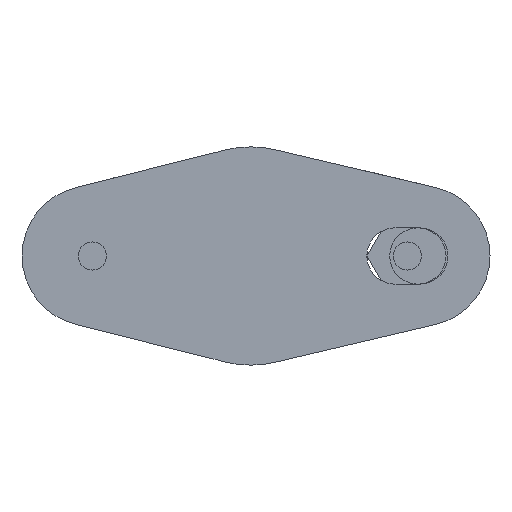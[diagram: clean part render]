
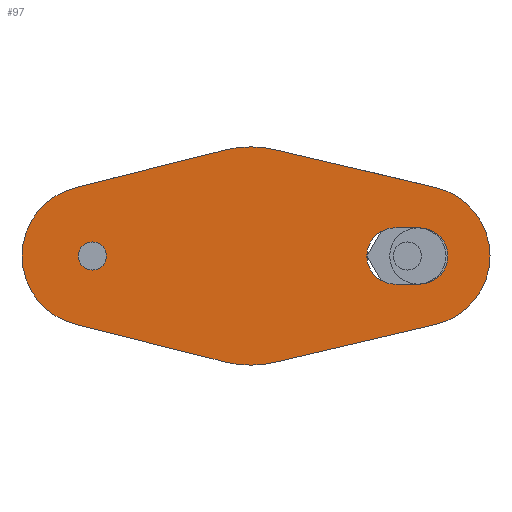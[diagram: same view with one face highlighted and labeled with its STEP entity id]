
A CAD part, front view. The second image highlights one B-rep face of the part: STEP entity #97.
In plain terms, the highlighted planar face has unit normal (0, -1, 0).
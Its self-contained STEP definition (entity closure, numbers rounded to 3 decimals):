
#97=ADVANCED_FACE('',(#181,#182,#183),#184,.F.);
#181=FACE_OUTER_BOUND('',#325,.T.);
#182=FACE_BOUND('',#326,.T.);
#183=FACE_BOUND('',#327,.T.);
#184=PLANE('',#328);
#325=EDGE_LOOP('',(#557,#558,#559,#560,#561,#562,#563,#564,#565,#566));
#326=EDGE_LOOP('',(#567,#568));
#327=EDGE_LOOP('',(#569,#570,#571,#572));
#328=AXIS2_PLACEMENT_3D('',#573,#574,#575);
#557=ORIENTED_EDGE('',*,*,#1025,.F.);
#558=ORIENTED_EDGE('',*,*,#1026,.F.);
#559=ORIENTED_EDGE('',*,*,#1027,.F.);
#560=ORIENTED_EDGE('',*,*,#1022,.F.);
#561=ORIENTED_EDGE('',*,*,#963,.F.);
#562=ORIENTED_EDGE('',*,*,#1020,.F.);
#563=ORIENTED_EDGE('',*,*,#1017,.F.);
#564=ORIENTED_EDGE('',*,*,#1028,.F.);
#565=ORIENTED_EDGE('',*,*,#1029,.F.);
#566=ORIENTED_EDGE('',*,*,#995,.F.);
#567=ORIENTED_EDGE('',*,*,#973,.F.);
#568=ORIENTED_EDGE('',*,*,#1030,.F.);
#569=ORIENTED_EDGE('',*,*,#1031,.T.);
#570=ORIENTED_EDGE('',*,*,#1032,.T.);
#571=ORIENTED_EDGE('',*,*,#1033,.T.);
#572=ORIENTED_EDGE('',*,*,#1034,.T.);
#573=CARTESIAN_POINT('',(45.0,0.0,0.0));
#574=DIRECTION('',(-0.0,1.0,0.0));
#575=DIRECTION('',(1.0,0.0,0.0));
#963=EDGE_CURVE('',#1123,#1126,#1127,.T.);
#973=EDGE_CURVE('',#1145,#1146,#1147,.T.);
#995=EDGE_CURVE('',#1185,#1187,#1188,.T.);
#1017=EDGE_CURVE('',#1223,#1225,#1226,.T.);
#1020=EDGE_CURVE('',#1225,#1123,#1229,.T.);
#1022=EDGE_CURVE('',#1126,#1232,#1233,.T.);
#1025=EDGE_CURVE('',#1236,#1185,#1237,.T.);
#1026=EDGE_CURVE('',#1238,#1236,#1239,.T.);
#1027=EDGE_CURVE('',#1232,#1238,#1240,.T.);
#1028=EDGE_CURVE('',#1241,#1223,#1242,.T.);
#1029=EDGE_CURVE('',#1187,#1241,#1243,.T.);
#1030=EDGE_CURVE('',#1146,#1145,#1244,.T.);
#1031=EDGE_CURVE('',#1245,#1246,#1247,.T.);
#1032=EDGE_CURVE('',#1246,#1248,#1249,.T.);
#1033=EDGE_CURVE('',#1248,#1250,#1251,.T.);
#1034=EDGE_CURVE('',#1250,#1245,#1252,.T.);
#1123=VERTEX_POINT('',#1390);
#1126=VERTEX_POINT('',#1394);
#1127=CIRCLE('',#1395,31.0);
#1145=VERTEX_POINT('',#1416);
#1146=VERTEX_POINT('',#1417);
#1147=CIRCLE('',#1418,4.0);
#1185=VERTEX_POINT('',#1478);
#1187=VERTEX_POINT('',#1481);
#1188=CIRCLE('',#1482,31.0);
#1223=VERTEX_POINT('',#1532);
#1225=VERTEX_POINT('',#1535);
#1226=LINE('',#1536,#1537);
#1229=CIRCLE('',#1541,31.0);
#1232=VERTEX_POINT('',#1545);
#1233=LINE('',#1546,#1547);
#1236=VERTEX_POINT('',#1552);
#1237=CIRCLE('',#1553,31.0);
#1238=VERTEX_POINT('',#1554);
#1239=LINE('',#1555,#1556);
#1240=CIRCLE('',#1557,20.0);
#1241=VERTEX_POINT('',#1558);
#1242=CIRCLE('',#1559,20.0);
#1243=LINE('',#1560,#1561);
#1244=CIRCLE('',#1562,4.0);
#1245=VERTEX_POINT('',#1563);
#1246=VERTEX_POINT('',#1564);
#1247=CIRCLE('',#1565,8.0);
#1248=VERTEX_POINT('',#1566);
#1249=LINE('',#1567,#1568);
#1250=VERTEX_POINT('',#1569);
#1251=CIRCLE('',#1570,8.0);
#1252=LINE('',#1571,#1572);
#1390=CARTESIAN_POINT('',(45.0,0.0,31.0));
#1394=CARTESIAN_POINT('',(52.104,0.0,30.175));
#1395=AXIS2_PLACEMENT_3D('',#1789,#1790,#1791);
#1416=CARTESIAN_POINT('',(0.0,0.0,-4.0));
#1417=CARTESIAN_POINT('',(0.,0.0,4.0));
#1418=AXIS2_PLACEMENT_3D('',#1813,#1814,#1815);
#1478=CARTESIAN_POINT('',(45.0,0.0,-31.0));
#1481=CARTESIAN_POINT('',(37.422,0.0,-30.06));
#1482=AXIS2_PLACEMENT_3D('',#1853,#1854,#1855);
#1532=CARTESIAN_POINT('',(-4.889,0.0,19.393));
#1535=CARTESIAN_POINT('',(37.422,0.0,30.06));
#1536=CARTESIAN_POINT('',(37.422,0.0,30.06));
#1537=VECTOR('',#1890,1000.0);
#1541=AXIS2_PLACEMENT_3D('',#1895,#1896,#1897);
#1545=CARTESIAN_POINT('',(97.583,0.0,19.468));
#1546=CARTESIAN_POINT('',(52.104,0.0,30.175));
#1547=VECTOR('',#1899,1000.0);
#1552=CARTESIAN_POINT('',(52.104,0.0,-30.175));
#1553=AXIS2_PLACEMENT_3D('',#1902,#1903,#1904);
#1554=CARTESIAN_POINT('',(97.583,0.0,-19.468));
#1555=CARTESIAN_POINT('',(52.104,0.0,-30.175));
#1556=VECTOR('',#1905,1000.0);
#1557=AXIS2_PLACEMENT_3D('',#1906,#1907,#1908);
#1558=CARTESIAN_POINT('',(-4.889,0.0,-19.393));
#1559=AXIS2_PLACEMENT_3D('',#1909,#1910,#1911);
#1560=CARTESIAN_POINT('',(37.422,0.0,-30.06));
#1561=VECTOR('',#1912,1000.0);
#1562=AXIS2_PLACEMENT_3D('',#1913,#1914,#1915);
#1563=CARTESIAN_POINT('',(86.0,0.0,-8.0));
#1564=CARTESIAN_POINT('',(86.0,0.0,8.0));
#1565=AXIS2_PLACEMENT_3D('',#1916,#1917,#1918);
#1566=CARTESIAN_POINT('',(93.0,0.0,8.0));
#1567=CARTESIAN_POINT('',(86.0,0.0,8.0));
#1568=VECTOR('',#1919,1000.0);
#1569=CARTESIAN_POINT('',(93.0,0.0,-8.0));
#1570=AXIS2_PLACEMENT_3D('',#1920,#1921,#1922);
#1571=CARTESIAN_POINT('',(86.0,0.0,-8.0));
#1572=VECTOR('',#1923,1000.0);
#1789=CARTESIAN_POINT('',(45.0,0.0,0.0));
#1790=DIRECTION('',(0.0,1.0,0.0));
#1791=DIRECTION('',(0.0,0.0,1.0));
#1813=CARTESIAN_POINT('',(0.0,0.0,0.0));
#1814=DIRECTION('',(0.0,-1.0,0.0));
#1815=DIRECTION('',(0.0,0.0,1.0));
#1853=CARTESIAN_POINT('',(45.0,0.0,0.0));
#1854=DIRECTION('',(0.0,1.0,0.0));
#1855=DIRECTION('',(0.0,0.0,1.0));
#1890=DIRECTION('',(0.97,-0.0,0.244));
#1895=CARTESIAN_POINT('',(45.0,0.0,0.0));
#1896=DIRECTION('',(0.0,1.0,0.0));
#1897=DIRECTION('',(0.0,0.0,1.0));
#1899=DIRECTION('',(0.973,0.0,-0.229));
#1902=CARTESIAN_POINT('',(45.0,0.0,0.0));
#1903=DIRECTION('',(0.0,1.0,0.0));
#1904=DIRECTION('',(0.0,0.0,1.0));
#1905=DIRECTION('',(-0.973,-0.0,-0.229));
#1906=CARTESIAN_POINT('',(93.0,0.0,0.0));
#1907=DIRECTION('',(0.0,1.0,0.0));
#1908=DIRECTION('',(0.0,0.0,1.0));
#1909=CARTESIAN_POINT('',(0.0,0.0,0.0));
#1910=DIRECTION('',(0.0,1.0,0.0));
#1911=DIRECTION('',(0.0,0.0,1.0));
#1912=DIRECTION('',(-0.97,0.0,0.244));
#1913=CARTESIAN_POINT('',(0.0,0.0,0.0));
#1914=DIRECTION('',(0.0,-1.0,0.0));
#1915=DIRECTION('',(0.0,0.0,1.0));
#1916=CARTESIAN_POINT('',(86.0,0.0,0.0));
#1917=DIRECTION('',(0.0,1.0,0.0));
#1918=DIRECTION('',(0.0,0.0,1.0));
#1919=DIRECTION('',(1.0,0.0,0.0));
#1920=CARTESIAN_POINT('',(93.0,0.0,0.0));
#1921=DIRECTION('',(0.0,1.0,0.0));
#1922=DIRECTION('',(0.0,0.0,1.0));
#1923=DIRECTION('',(-1.0,-0.0,-0.0));
